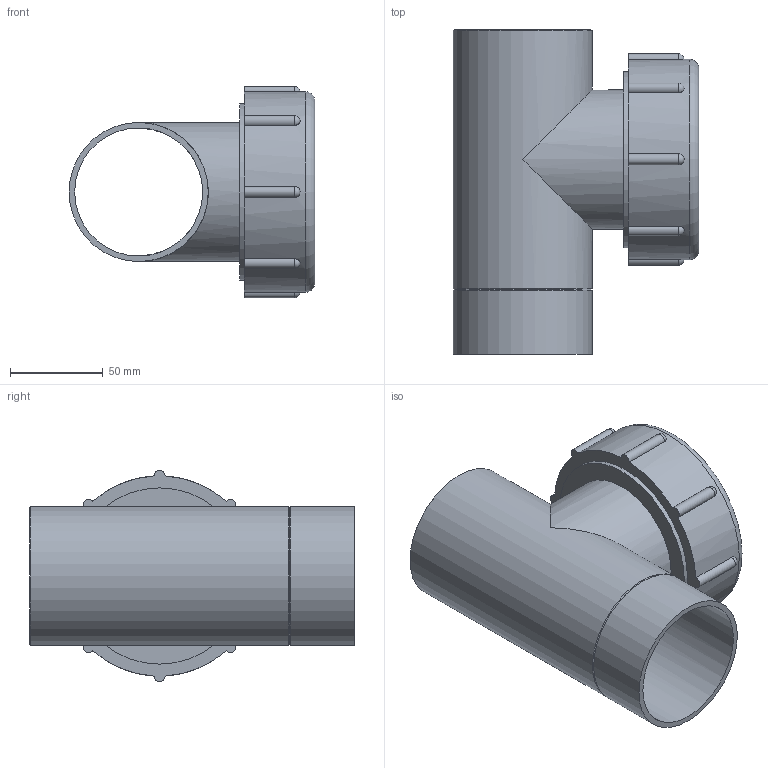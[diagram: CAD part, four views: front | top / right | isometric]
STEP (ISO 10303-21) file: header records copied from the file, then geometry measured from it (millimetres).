
FILE_DESCRIPTION(/* description */ (''),/* implementation_level */ '2;1');
FILE_NAME(/* name */ 'Z:\Geberit\Export\NewStep\365451.stp',/* time_stamp */ '2014-04-02T07:34:07+02:00',/* author */ ('Marco'),/* organization */ (''),/* preprocessor_version */ 'ST-DEVELOPER v15.2',/* originating_system */ 'Autodesk Inventor 2014',/* authorisation */ '');
FILE_SCHEMA (('AUTOMOTIVE_DESIGN { 1 0 10303 214 3 1 1 }'));
Length unit declared in the file: millimetre
Products named in the file (3): 853715; 853894; 365451
Bounding box: 132.5 x 175 x 113.98 mm (x, y, z)
Volume: 378115.9 mm3; surface area: 149357.2 mm2
Topology: 2 solids, 2 shells, 39 faces, 106 edges, 67 vertices
Faces by surface type: cylinder 18, plane 9, sphere 8, cone 3, torus 1
Full cylindrical faces by diameter (mm): 69 x2, 74 x1, 75 x3, 76 x1, 95 x2, 108 x1
Entity records: 1349 total; most frequent: CARTESIAN_POINT 364, DIRECTION 200, ORIENTED_EDGE 160, AXIS2_PLACEMENT_3D 92, EDGE_CURVE 80, VERTEX_POINT 64, EDGE_LOOP 62, CIRCLE 44
